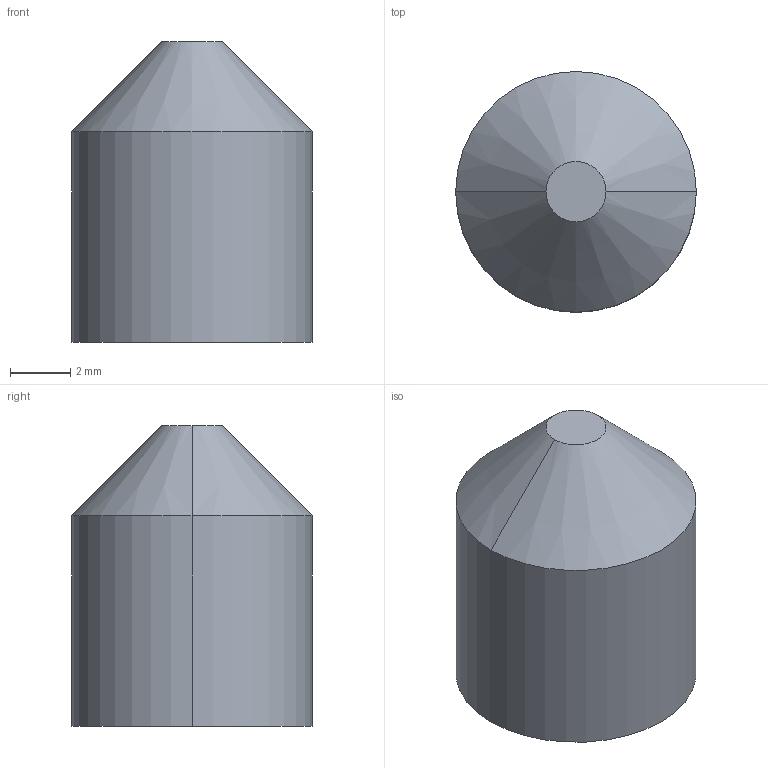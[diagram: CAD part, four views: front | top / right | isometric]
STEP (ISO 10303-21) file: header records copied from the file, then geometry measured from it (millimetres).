
FILE_DESCRIPTION (( 'STEP AP203' ), '1' );
FILE_NAME ('5081.STEP', '2016-04-23T06:50:59', ( '' ), ( '' ), 'SwSTEP 2.0', 'SolidWorks 2014', '' );
FILE_SCHEMA (( 'CONFIG_CONTROL_DESIGN' ));
Length unit declared in the file: millimetre
Products named in the file (1): 5081
Bounding box: 8 x 8 x 10 mm (x, y, z)
Volume: 376.3 mm3; surface area: 337.5 mm2
Topology: 1 solids, 1 shells, 13 faces, 28 edges, 18 vertices
Faces by surface type: plane 9, cone 2, cylinder 2
Entity records: 429 total; most frequent: DIRECTION 62, CARTESIAN_POINT 60, ORIENTED_EDGE 56, EDGE_CURVE 28, VECTOR 22, LINE 22, AXIS2_PLACEMENT_3D 20, VERTEX_POINT 18
